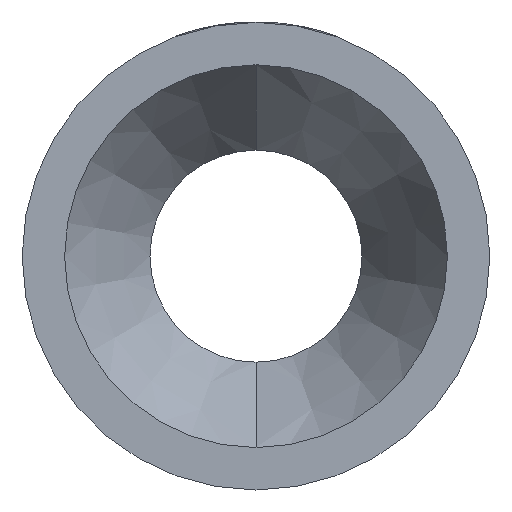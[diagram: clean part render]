
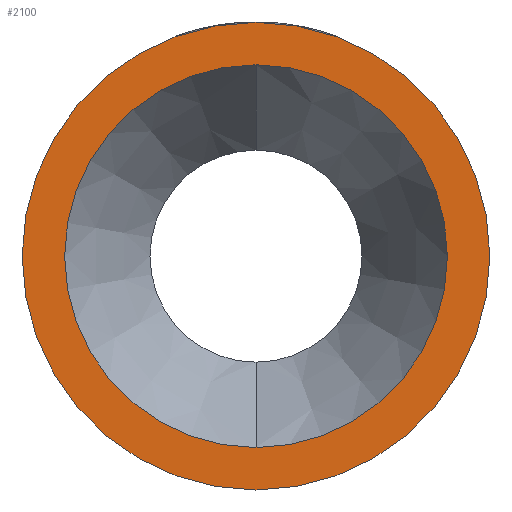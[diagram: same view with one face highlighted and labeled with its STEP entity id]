
A CAD part, left-side view. The second image highlights one B-rep face of the part: STEP entity #2100.
In plain terms, the highlighted planar face has unit normal (-1, 0, 0).
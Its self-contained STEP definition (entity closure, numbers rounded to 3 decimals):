
#290 = CIRCLE ( 'NONE', #3062, 315. ) ;
#437 = EDGE_LOOP ( 'NONE', ( #1939, #1971 ) ) ;
#504 = CIRCLE ( 'NONE', #3265, 257.8 ) ;
#522 = VERTEX_POINT ( 'NONE', #872 ) ;
#594 = EDGE_CURVE ( 'NONE', #933, #722, #504, .T. ) ;
#600 = CARTESIAN_POINT ( 'NONE',  ( 0., 0., -257.8 ) ) ;
#604 = DIRECTION ( 'NONE',  ( 0., 0., 1. ) ) ;
#613 = DIRECTION ( 'NONE',  ( -1., 0., 0. ) ) ;
#626 = CARTESIAN_POINT ( 'NONE',  ( 0., 0., 0. ) ) ;
#670 = DIRECTION ( 'NONE',  ( 0., 0., -1. ) ) ;
#686 = DIRECTION ( 'NONE',  ( 1., 0., 0. ) ) ;
#692 = CARTESIAN_POINT ( 'NONE',  ( 0., 257.8, 0. ) ) ;
#722 = VERTEX_POINT ( 'NONE', #600 ) ;
#737 = EDGE_CURVE ( 'NONE', #522, #998, #290, .T. ) ;
#855 = PLANE ( 'NONE',  #1171 ) ;
#872 = CARTESIAN_POINT ( 'NONE',  ( 0., 0., -315. ) ) ;
#919 = EDGE_CURVE ( 'NONE', #722, #933, #3791, .T. ) ;
#933 = VERTEX_POINT ( 'NONE', #3409 ) ;
#998 = VERTEX_POINT ( 'NONE', #3176 ) ;
#1026 = FACE_BOUND ( 'NONE', #1581, .T. ) ;
#1029 = FACE_OUTER_BOUND ( 'NONE', #437, .T. ) ;
#1123 = CIRCLE ( 'NONE', #2077, 315. ) ;
#1171 = AXIS2_PLACEMENT_3D ( 'NONE', #692, #686, #670 ) ;
#1528 = EDGE_CURVE ( 'NONE', #998, #522, #1123, .T. ) ;
#1581 = EDGE_LOOP ( 'NONE', ( #1932, #1936 ) ) ;
#1932 = ORIENTED_EDGE ( 'NONE', *, *, #594, .F. ) ;
#1936 = ORIENTED_EDGE ( 'NONE', *, *, #919, .F. ) ;
#1939 = ORIENTED_EDGE ( 'NONE', *, *, #1528, .T. ) ;
#1971 = ORIENTED_EDGE ( 'NONE', *, *, #737, .T. ) ;
#2077 = AXIS2_PLACEMENT_3D ( 'NONE', #3349, #3329, #3323 ) ;
#2100 = ADVANCED_FACE ( 'NONE', ( #1026, #1029 ), #855, .F. ) ;
#2902 = AXIS2_PLACEMENT_3D ( 'NONE', #3377, #3371, #3353 ) ;
#3062 = AXIS2_PLACEMENT_3D ( 'NONE', #3846, #3835, #3826 ) ;
#3176 = CARTESIAN_POINT ( 'NONE',  ( 0., 0., 315. ) ) ;
#3265 = AXIS2_PLACEMENT_3D ( 'NONE', #626, #613, #604 ) ;
#3323 = DIRECTION ( 'NONE',  ( 0., 0., 1. ) ) ;
#3329 = DIRECTION ( 'NONE',  ( -1., 0., 0. ) ) ;
#3349 = CARTESIAN_POINT ( 'NONE',  ( 0., 0., 0. ) ) ;
#3353 = DIRECTION ( 'NONE',  ( 0., 0., 1. ) ) ;
#3371 = DIRECTION ( 'NONE',  ( -1., 0., 0. ) ) ;
#3377 = CARTESIAN_POINT ( 'NONE',  ( 0., 0., 0. ) ) ;
#3409 = CARTESIAN_POINT ( 'NONE',  ( 0., 0., 257.8 ) ) ;
#3791 = CIRCLE ( 'NONE', #2902, 257.8 ) ;
#3826 = DIRECTION ( 'NONE',  ( 0., 0., 1. ) ) ;
#3835 = DIRECTION ( 'NONE',  ( -1., 0., 0. ) ) ;
#3846 = CARTESIAN_POINT ( 'NONE',  ( 0., 0., 0. ) ) ;
